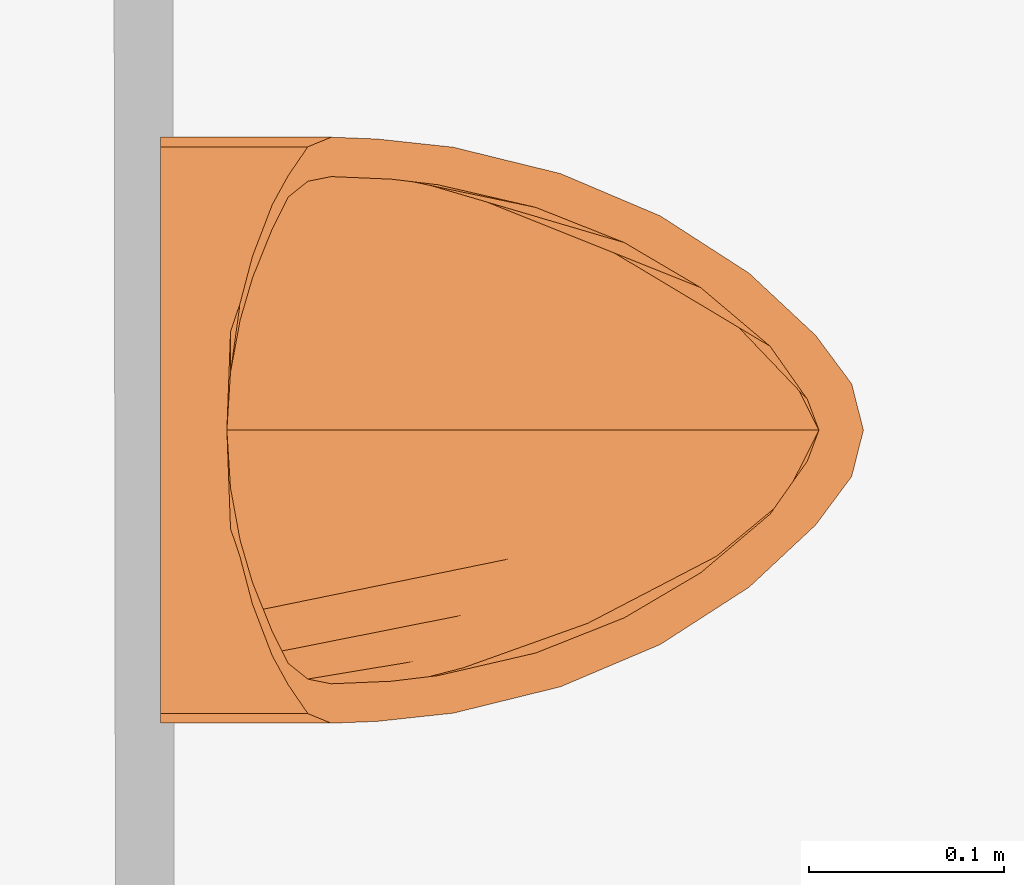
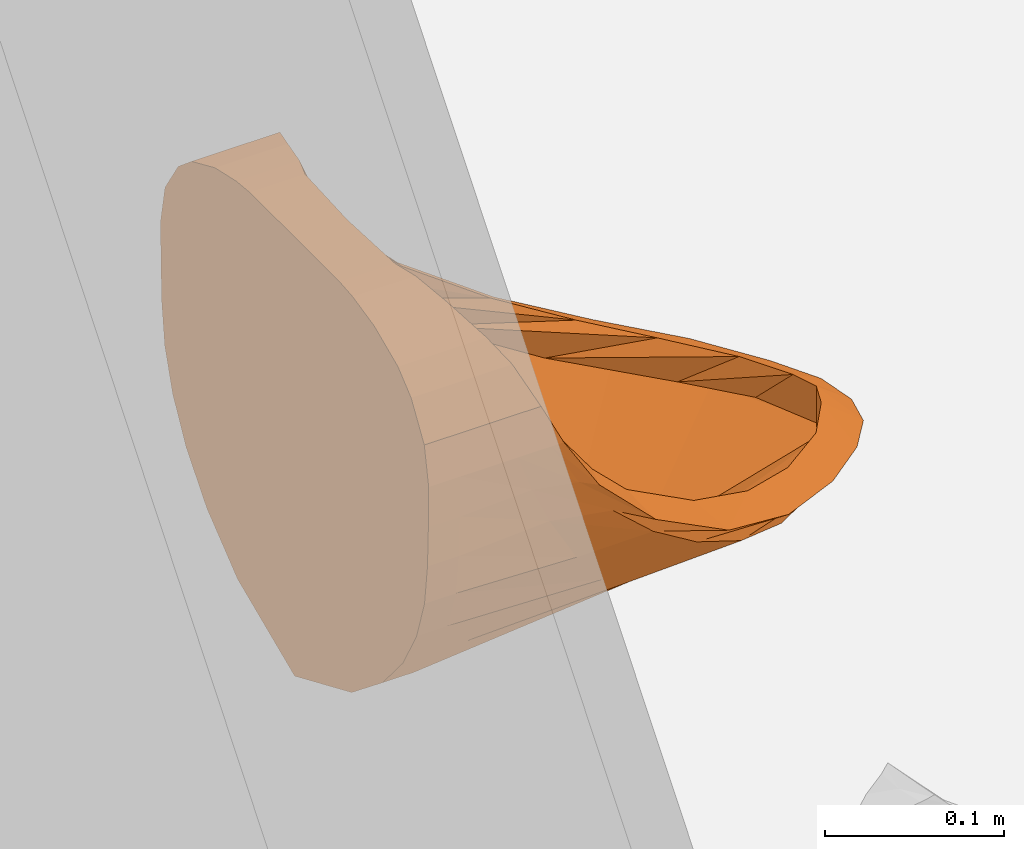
# One storey, part 156 of 158: 1 proxy.
"""IFC2X3 building model written with IfcOpenShell, lengths in metres."""

from ifc_helpers import new_model, entity, si_unit, converted_unit, derived_unit, money_unit, direction, frame, origin_with_axes, place, context, subcontext, project, spatial, open_shell, faceted_brep, surface_model, type_object, element, save


model = new_model("IFC2X3")

# Units and contexts
model_context = context("Model", 3, precision=1e-05, world=origin_with_axes(), true_north=direction((0.0, 1.0)))
body_context = subcontext(model_context, "Body", "Model", "MODEL_VIEW")
ifc_project = project(units=[si_unit("LENGTHUNIT", "METRE"), si_unit("AREAUNIT", "SQUARE_METRE"), si_unit("VOLUMEUNIT", "CUBIC_METRE"), converted_unit("PLANEANGLEUNIT", "DEGREE", entity("IfcPlaneAngleMeasure", 0.0174532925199), si_unit("PLANEANGLEUNIT", "RADIAN"), dimensions=[0, 0, 0, 0, 0, 0, 0]), money_unit("EUR"), converted_unit("TIMEUNIT", "Year", entity("IfcTimeMeasure", 31556926.0), si_unit("TIMEUNIT", "SECOND"), dimensions=[0, 0, 1, 0, 0, 0, 0]), si_unit("MASSUNIT", "GRAM", prefix="KILO"), si_unit("THERMODYNAMICTEMPERATUREUNIT", "DEGREE_CELSIUS"), si_unit("LUMINOUSINTENSITYUNIT", "LUMEN"), si_unit("ENERGYUNIT", "JOULE", prefix="MEGA"), derived_unit("THERMALCONDUCTANCEUNIT", [(si_unit("POWERUNIT", "WATT"), 1), (si_unit("LENGTHUNIT", "METRE"), -1), (si_unit("THERMODYNAMICTEMPERATUREUNIT", "KELVIN"), -1)]), derived_unit("SPECIFICHEATCAPACITYUNIT", [(si_unit("ENERGYUNIT", "JOULE"), 1), (si_unit("MASSUNIT", "GRAM", prefix="KILO"), -1), (si_unit("THERMODYNAMICTEMPERATUREUNIT", "KELVIN"), -1)]), derived_unit("MASSDENSITYUNIT", [(si_unit("MASSUNIT", "GRAM", prefix="KILO"), 1), (si_unit("VOLUMEUNIT", "CUBIC_METRE"), -1)])], contexts=[model_context])

# Site, building, storey
site_placement = place(None, origin_with_axes())
site = spatial("IfcSite", under=ifc_project, at=site_placement, Name="Gelände", CompositionType="ELEMENT")
building_placement = place(site_placement, origin_with_axes())
building = spatial("IfcBuilding", under=site, at=building_placement, Name="Gebäude", CompositionType="ELEMENT")
storey_placement = place(building_placement, origin_with_axes())
storey = spatial("IfcBuildingStorey", under=building, at=storey_placement, Name="ERDGESCHOSS", CompositionType="ELEMENT", Elevation=0.0)

# Proxy
building_element_proxy_type = type_object("IfcBuildingElementProxyType", Name="Urinal 1 25", PredefinedType="NOTDEFINED")
proxy_placement = place(storey_placement, frame((13.2950692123, 24.3829677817, -0.10713353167), z_axis=(0.0, 0.0, 1.0), x_axis=(0.0, 1.0, 0.0)))
element("IfcBuildingElementProxy", 1, at=proxy_placement, inside=storey, type_object=building_element_proxy_type, Name="Objekt-00219", context=body_context, shape_type="SurfaceModel", body=[
    faceted_brep([(0.0, 0.00678921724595, 1.0), (-0.0503710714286, 0.00678921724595, 0.999898), (-0.0503710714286, 0.0, 0.999898), (0.0, 0.0, 1.0), (0.0503710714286, 0.00678921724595, 0.999898), (0.0650260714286, 0.00678921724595, 0.998525), (0.0890367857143, 0.00678921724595, 0.993198), (0.115533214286, 0.00678921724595, 0.981535), (0.130329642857, 0.00678921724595, 0.969181), (0.1451025, 0.00678921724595, 0.945871), (0.15, 0.00678921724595, 0.920148), (0.149671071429, 0.00678921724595, 0.89263), (0.148683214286, 0.00678921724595, 0.865111), (0.145370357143, 0.00678921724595, 0.837593), (0.136527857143, 0.00678921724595, 0.810074), (0.121330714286, 0.00678921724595, 0.782556), (0.0982478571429, 0.00678921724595, 0.755037), (0.0638796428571, 0.00678921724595, 0.727519), (0.0, 0.00678921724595, 0.7), (-0.0638796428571, 0.00678921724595, 0.727519), (-0.0982478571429, 0.00678921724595, 0.755037), (-0.121330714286, 0.00678921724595, 0.782556), (-0.136527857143, 0.00678921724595, 0.810074), (-0.145370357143, 0.00678921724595, 0.837593), (-0.148683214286, 0.00678921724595, 0.865111), (-0.149671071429, 0.00678921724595, 0.89263), (-0.15, 0.00678921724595, 0.920148), (-0.1451025, 0.00678921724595, 0.945871), (-0.130329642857, 0.00678921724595, 0.969181), (-0.115533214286, 0.00678921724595, 0.981535), (-0.0890367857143, 0.00678921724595, 0.993198), (-0.0650260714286, 0.00678921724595, 0.998525), (-0.0650260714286, 0.0, 0.998525), (-0.0890367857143, 0.0, 0.993198), (-0.115533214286, 0.0, 0.981535), (-0.130329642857, 0.0, 0.969181), (-0.1451025, 0.0, 0.945871), (-0.15, 0.0, 0.920148), (-0.149671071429, 0.0, 0.89263), (-0.148683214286, 0.0, 0.865111), (-0.145370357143, 0.0, 0.837593), (-0.136527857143, 0.0, 0.810074), (-0.121330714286, 0.0, 0.782556), (-0.0982478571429, 0.0, 0.755037), (-0.0638796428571, 0.0, 0.727519), (0.0, 0.0, 0.7), (0.0638796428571, 0.0, 0.727519), (0.0982478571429, 0.0, 0.755037), (0.121330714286, 0.0, 0.782556), (0.136527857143, 0.0, 0.810074), (0.145370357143, 0.0, 0.837593), (0.148683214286, 0.0, 0.865111), (0.149671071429, 0.0, 0.89263), (0.15, 0.0, 0.920148), (0.1451025, 0.0, 0.945871), (0.130329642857, 0.0, 0.969181), (0.115533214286, 0.0, 0.981535), (0.0890367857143, 0.0, 0.993198), (0.0650260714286, 0.0, 0.998525), (0.0503710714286, 0.0, 0.999898)], [[[0, 1, 2, 3]], [[0, 4, 5, 6, 7, 8, 9, 10, 11, 12, 13, 14, 15, 16, 17, 18, 19, 20, 21, 22, 23, 24, 25, 26, 27, 28, 29, 30, 31, 1]], [[1, 31, 32, 2]], [[3, 2, 32, 33, 34, 35, 36, 37, 38, 39, 40, 41, 42, 43, 44, 45, 46, 47, 48, 49, 50, 51, 52, 53, 54, 55, 56, 57, 58, 59]], [[4, 0, 3, 59]], [[5, 4, 59, 58]], [[6, 5, 58, 57]], [[7, 6, 57, 56]], [[8, 7, 56, 55]], [[9, 8, 55, 54]], [[10, 9, 54, 53]], [[11, 10, 53, 52]], [[12, 11, 52, 51]], [[13, 12, 51, 50]], [[14, 13, 50, 49]], [[15, 14, 49, 48]], [[16, 15, 48, 47]], [[17, 16, 47, 46]], [[18, 17, 46, 45]], [[19, 18, 45, 44]], [[20, 19, 44, 43]], [[21, 20, 43, 42]], [[22, 21, 42, 41]], [[23, 22, 41, 40]], [[24, 23, 40, 39]], [[25, 24, 39, 38]], [[26, 25, 38, 37]], [[27, 26, 37, 36]], [[28, 27, 36, 35]], [[29, 28, 35, 34]], [[30, 29, 34, 33]], [[31, 30, 33, 32]]]),
    surface_model("IfcShellBasedSurfaceModel", [(0.0, 0.0, 1.0), (0.0, -0.0135784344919, 1.0), (-0.0503710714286, -0.0135784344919, 0.999898), (0.0503710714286, 0.0, 0.999898), (-0.0503710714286, -0.0204138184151, 0.999898), (-0.0503710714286, 0.0, 0.999898), (0.0503710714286, -0.0135784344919, 0.999898), (0.0, -0.0203676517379, 1.0), (-0.0650260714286, -0.0210370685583, 0.998525), (-0.0650260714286, -0.0135784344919, 0.998525), (0.0650260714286, 0.0, 0.998525), (-0.0503710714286, -0.0261316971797, 0.999898), (-0.0650260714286, -0.0270115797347, 0.998525), (-0.0650260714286, 0.0, 0.998525), (0.0650260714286, -0.0135784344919, 0.998525), (0.0503710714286, -0.0204138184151, 0.999898), (0.0, -0.0260610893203, 1.0), (-0.0890367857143, -0.0306438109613, 0.993198), (-0.0890367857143, -0.0234200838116, 0.993198), (-0.0890367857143, -0.0135784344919, 0.993198), (0.0890367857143, 0.0, 0.993198), (-0.0503710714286, -0.0290171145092, 0.999898), (-0.0650260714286, -0.0339365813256, 0.998525), (-0.0890367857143, -0.040261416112, 0.993198), (-0.0890367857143, 0.0, 0.993198), (0.0890367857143, -0.0135784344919, 0.993198), (0.0650260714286, -0.0210370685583, 0.998525), (0.0503710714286, -0.0261316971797, 0.999898), (0.0, -0.0271568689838, 1.0), (-0.115533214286, -0.0504180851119, 0.981535), (-0.115533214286, -0.038215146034, 0.981535), (-0.115533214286, -0.0284495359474, 0.981535), (-0.115533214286, -0.0135784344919, 0.981535), (0.115533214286, 0.0, 0.981535), (-0.115533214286, 0.0, 0.981535), (0.115533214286, -0.0135784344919, 0.981535), (0.0890367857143, -0.0234200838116, 0.993198), (0.0650260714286, -0.0270115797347, 0.998525), (0.0503710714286, -0.0290171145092, 0.999898), (-0.130329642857, -0.0585610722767, 0.969181), (-0.130329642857, -0.0458502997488, 0.969181), (-0.130329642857, -0.0335007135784, 0.969181), (-0.130329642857, -0.0135784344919, 0.969181), (0.130329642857, 0.0, 0.969181), (-0.130329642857, 0.0, 0.969181), (0.130329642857, -0.0135784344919, 0.969181), (0.115533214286, -0.0284495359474, 0.981535), (0.0890367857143, -0.0306438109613, 0.993198), (0.0650260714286, -0.0339365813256, 0.998525), (-0.1451025, -0.0686254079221, 0.945871), (-0.1451025, -0.0592141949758, 0.945871), (-0.1451025, -0.0422696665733, 0.945871), (-0.1451025, -0.0135784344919, 0.945871), (0.1451025, 0.0, 0.945871), (-0.1451025, 0.0, 0.945871), (0.1451025, -0.0135784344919, 0.945871), (0.130329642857, -0.0335007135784, 0.969181), (0.115533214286, -0.038215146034, 0.981535), (0.0890367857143, -0.040261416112, 0.993198), (-0.15, -0.0805635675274, 0.920148), (-0.15, -0.0724409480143, 0.920148), (-0.15, -0.0508118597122, 0.920148), (-0.15, -0.0135784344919, 0.920148), (0.15, 0.0, 0.920148), (-0.15, 0.0, 0.920148), (0.15, -0.0135784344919, 0.920148), (0.1451025, -0.0422696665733, 0.945871), (0.130329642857, -0.0458502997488, 0.969181), (0.115533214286, -0.0504180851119, 0.981535), (-0.149088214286, -0.103963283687, 0.882346), (-0.148938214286, -0.0908166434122, 0.888729), (-0.148493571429, -0.0607906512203, 0.893637), (-0.149671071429, -0.0135784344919, 0.89263), (0.149671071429, 0.0, 0.89263), (-0.149671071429, 0.0, 0.89263), (0.149671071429, -0.0135784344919, 0.89263), (0.15, -0.0508118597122, 0.920148), (0.1451025, -0.0592141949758, 0.945871), (0.130329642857, -0.0585610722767, 0.969181), (-0.144867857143, -0.14305967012, 0.842424), (-0.146004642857, -0.114505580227, 0.859303), (-0.1458225, -0.0736589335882, 0.866246), (-0.148683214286, -0.0135784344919, 0.865111), (0.148683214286, 0.0, 0.865111), (-0.148683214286, 0.0, 0.865111), (0.148683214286, -0.0135784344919, 0.865111), (0.148493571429, -0.0607906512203, 0.893637), (0.15, -0.0724409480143, 0.920148), (0.1451025, -0.0686254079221, 0.945871), (-0.131359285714, -0.197958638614, 0.807653), (-0.1416, -0.143118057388, 0.832354), (-0.137941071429, -0.0956600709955, 0.829001), (-0.145370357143, -0.0135784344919, 0.837593), (0.145370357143, 0.0, 0.837593), (-0.145370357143, 0.0, 0.837593), (0.145370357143, -0.0135784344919, 0.837593), (0.1458225, -0.0736589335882, 0.866246), (0.148938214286, -0.0908166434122, 0.888729), (0.15, -0.0805635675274, 0.920148), (-0.109682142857, -0.249100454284, 0.787417), (-0.133041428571, -0.176182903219, 0.808327), (-0.118344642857, -0.1230613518, 0.792232), (-0.136527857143, -0.0135784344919, 0.810074), (0.136527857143, 0.0, 0.810074), (-0.136527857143, 0.0, 0.810074), (0.136527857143, -0.0135784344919, 0.810074), (0.137941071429, -0.0956600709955, 0.829001), (0.146004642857, -0.114505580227, 0.859303), (0.149088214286, -0.103963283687, 0.882346), (-0.0803528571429, -0.294544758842, 0.776444), (-0.1187925, -0.213155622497, 0.787618), (-0.09477, -0.147373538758, 0.76517), (-0.121330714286, -0.0135784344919, 0.782556), (0.121330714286, 0.0, 0.782556), (-0.121330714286, 0.0, 0.782556), (0.121330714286, -0.0135784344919, 0.782556), (0.118344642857, -0.1230613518, 0.792232), (0.1416, -0.143118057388, 0.832354), (0.144867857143, -0.14305967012, 0.842424), (-0.0486064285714, -0.328531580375, 0.768676), (-0.0942653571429, -0.25342518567, 0.770567), (-0.0659742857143, -0.171256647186, 0.742159), (-0.0982478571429, -0.0135784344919, 0.755037), (0.0982478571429, 0.0, 0.755037), (-0.0982478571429, 0.0, 0.755037), (0.0982478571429, -0.0135784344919, 0.755037), (0.09477, -0.147373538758, 0.76517), (0.133041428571, -0.176182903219, 0.808327), (0.131359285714, -0.197958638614, 0.807653), (-0.0237192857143, -0.347015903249, 0.765137), (-0.0589767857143, -0.296328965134, 0.757456), (-0.0335507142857, -0.194213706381, 0.724265), (-0.0638796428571, -0.0135784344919, 0.727519), (0.0638796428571, 0.0, 0.727519), (-0.0638796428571, 0.0, 0.727519), (0.0638796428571, -0.0135784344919, 0.727519), (0.0659742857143, -0.171256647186, 0.742159), (0.1187925, -0.213155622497, 0.787618), (0.109682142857, -0.249100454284, 0.787417), (0.0, -0.35303929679, 0.763229), (0.0, -0.341159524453, 0.748501), (0.0, -0.214957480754, 0.712313), (0.0, -0.0135784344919, 0.7), (0.0, 0.0, 0.7), (0.0335507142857, -0.194213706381, 0.724265), (0.0942653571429, -0.25342518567, 0.770567), (0.0803528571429, -0.294544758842, 0.776444), (0.0237192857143, -0.347015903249, 0.765137), (0.0589767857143, -0.296328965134, 0.757456), (0.0486064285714, -0.328531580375, 0.768676)], [open_shell([[[0, 1, 2]], [[3, 1, 0]], [[1, 4, 2]], [[0, 2, 5]], [[3, 6, 1]], [[1, 7, 4]], [[2, 4, 8]], [[5, 2, 9]], [[10, 6, 3]], [[6, 7, 1]], [[7, 11, 4]], [[4, 12, 8]], [[2, 8, 9]], [[5, 9, 13]], [[10, 14, 6]], [[6, 15, 7]], [[7, 16, 11]], [[4, 11, 12]], [[8, 12, 17]], [[9, 8, 18]], [[13, 9, 19]], [[20, 14, 10]], [[14, 15, 6]], [[15, 16, 7]], [[16, 21, 11]], [[11, 22, 12]], [[12, 23, 17]], [[8, 17, 18]], [[9, 18, 19]], [[13, 19, 24]], [[20, 25, 14]], [[14, 26, 15]], [[15, 27, 16]], [[16, 28, 21]], [[11, 21, 22]], [[12, 22, 23]], [[17, 23, 29]], [[18, 17, 30]], [[19, 18, 31]], [[24, 19, 32]], [[33, 25, 20]], [[25, 26, 14]], [[26, 27, 15]], [[27, 28, 16]], [[17, 29, 30]], [[18, 30, 31]], [[19, 31, 32]], [[24, 32, 34]], [[33, 35, 25]], [[25, 36, 26]], [[26, 37, 27]], [[27, 38, 28]], [[30, 29, 39]], [[31, 30, 40]], [[32, 31, 41]], [[34, 32, 42]], [[43, 35, 33]], [[35, 36, 25]], [[36, 37, 26]], [[37, 38, 27]], [[30, 39, 40]], [[31, 40, 41]], [[32, 41, 42]], [[34, 42, 44]], [[43, 45, 35]], [[35, 46, 36]], [[36, 47, 37]], [[37, 48, 38]], [[40, 39, 49]], [[41, 40, 50]], [[42, 41, 51]], [[44, 42, 52]], [[53, 45, 43]], [[45, 46, 35]], [[46, 47, 36]], [[47, 48, 37]], [[40, 49, 50]], [[41, 50, 51]], [[42, 51, 52]], [[44, 52, 54]], [[53, 55, 45]], [[45, 56, 46]], [[46, 57, 47]], [[47, 58, 48]], [[50, 49, 59]], [[51, 50, 60]], [[52, 51, 61]], [[54, 52, 62]], [[63, 55, 53]], [[55, 56, 45]], [[56, 57, 46]], [[57, 58, 47]], [[50, 59, 60]], [[51, 60, 61]], [[52, 61, 62]], [[54, 62, 64]], [[63, 65, 55]], [[55, 66, 56]], [[56, 67, 57]], [[57, 68, 58]], [[60, 59, 69]], [[61, 60, 70]], [[62, 61, 71]], [[64, 62, 72]], [[73, 65, 63]], [[65, 66, 55]], [[66, 67, 56]], [[67, 68, 57]], [[60, 69, 70]], [[61, 70, 71]], [[62, 71, 72]], [[64, 72, 74]], [[73, 75, 65]], [[65, 76, 66]], [[66, 77, 67]], [[67, 78, 68]], [[70, 69, 79]], [[71, 70, 80]], [[72, 71, 81]], [[74, 72, 82]], [[83, 75, 73]], [[75, 76, 65]], [[76, 77, 66]], [[77, 78, 67]], [[70, 79, 80]], [[71, 80, 81]], [[72, 81, 82]], [[74, 82, 84]], [[83, 85, 75]], [[75, 86, 76]], [[76, 87, 77]], [[77, 88, 78]], [[80, 79, 89]], [[81, 80, 90]], [[82, 81, 91]], [[84, 82, 92]], [[93, 85, 83]], [[85, 86, 75]], [[86, 87, 76]], [[87, 88, 77]], [[80, 89, 90]], [[81, 90, 91]], [[82, 91, 92]], [[84, 92, 94]], [[93, 95, 85]], [[85, 96, 86]], [[86, 97, 87]], [[87, 98, 88]], [[90, 89, 99]], [[91, 90, 100]], [[92, 91, 101]], [[94, 92, 102]], [[103, 95, 93]], [[95, 96, 85]], [[96, 97, 86]], [[97, 98, 87]], [[90, 99, 100]], [[91, 100, 101]], [[92, 101, 102]], [[94, 102, 104]], [[103, 105, 95]], [[95, 106, 96]], [[96, 107, 97]], [[97, 108, 98]], [[100, 99, 109]], [[101, 100, 110]], [[102, 101, 111]], [[104, 102, 112]], [[113, 105, 103]], [[105, 106, 95]], [[106, 107, 96]], [[107, 108, 97]], [[100, 109, 110]], [[101, 110, 111]], [[102, 111, 112]], [[104, 112, 114]], [[113, 115, 105]], [[105, 116, 106]], [[106, 117, 107]], [[107, 118, 108]], [[110, 109, 119]], [[111, 110, 120]], [[112, 111, 121]], [[114, 112, 122]], [[123, 115, 113]], [[115, 116, 105]], [[116, 117, 106]], [[117, 118, 107]], [[110, 119, 120]], [[111, 120, 121]], [[112, 121, 122]], [[114, 122, 124]], [[123, 125, 115]], [[115, 126, 116]], [[116, 127, 117]], [[117, 128, 118]], [[120, 119, 129]], [[121, 120, 130]], [[122, 121, 131]], [[124, 122, 132]], [[133, 125, 123]], [[125, 126, 115]], [[126, 127, 116]], [[127, 128, 117]], [[120, 129, 130]], [[121, 130, 131]], [[122, 131, 132]], [[124, 132, 134]], [[133, 135, 125]], [[125, 136, 126]], [[126, 137, 127]], [[127, 138, 128]], [[130, 129, 139]], [[131, 130, 140]], [[132, 131, 141]], [[134, 132, 142]], [[143, 135, 133]], [[135, 136, 125]], [[136, 137, 126]], [[137, 138, 127]], [[130, 139, 140]], [[131, 140, 141]], [[132, 141, 142]], [[134, 142, 143]], [[143, 142, 135]], [[135, 144, 136]], [[136, 145, 137]], [[137, 146, 138]], [[140, 139, 147]], [[141, 140, 148]], [[142, 141, 144]], [[142, 144, 135]], [[144, 145, 136]], [[145, 146, 137]], [[140, 147, 148]], [[141, 148, 144]], [[144, 148, 145]], [[145, 149, 146]], [[148, 147, 149]], [[148, 149, 145]]])]),
    surface_model("IfcShellBasedSurfaceModel", [(0.0, -0.0271568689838, 1.0), (0.0, -0.0271568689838, 0.99), (-0.0295992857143, -0.0290171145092, 0.988966), (0.0503710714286, -0.0290171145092, 0.999898), (-0.0503710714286, -0.0290171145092, 0.999898), (0.0295992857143, -0.0290171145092, 0.988966), (-0.056325, -0.0339365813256, 0.98626), (0.0650260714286, -0.0339365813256, 0.998525), (-0.0650260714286, -0.0339365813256, 0.998525), (0.056325, -0.0339365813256, 0.98626), (-0.0779764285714, -0.040261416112, 0.98082), (0.0890367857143, -0.040261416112, 0.993198), (-0.0890367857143, -0.040261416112, 0.993198), (0.0779764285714, -0.040261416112, 0.98082), (-0.103178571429, -0.0504180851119, 0.968491), (0.115533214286, -0.0504180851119, 0.981535), (-0.115533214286, -0.0504180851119, 0.981535), (0.103178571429, -0.0504180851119, 0.968491), (-0.119395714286, -0.0585610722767, 0.952746), (0.130329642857, -0.0585610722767, 0.969181), (-0.130329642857, -0.0585610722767, 0.969181), (0.119395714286, -0.0585610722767, 0.952746), (-0.127429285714, -0.0686254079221, 0.936322), (0.1451025, -0.0686254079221, 0.945871), (-0.1451025, -0.0686254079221, 0.945871), (0.127429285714, -0.0686254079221, 0.936322), (-0.129833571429, -0.0805635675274, 0.920148), (0.15, -0.0805635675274, 0.920148), (-0.15, -0.0805635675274, 0.920148), (0.129833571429, -0.0805635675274, 0.920148), (-0.128517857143, -0.111311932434, 0.87807), (0.149088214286, -0.103963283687, 0.882346), (-0.149088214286, -0.103963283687, 0.882346), (0.128517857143, -0.111311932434, 0.87807), (-0.125659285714, -0.135161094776, 0.854025), (0.144867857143, -0.14305967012, 0.842424), (-0.144867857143, -0.14305967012, 0.842424), (0.125659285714, -0.135161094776, 0.854025), (-0.114079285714, -0.185242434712, 0.821972), (0.131359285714, -0.197958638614, 0.807653), (-0.131359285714, -0.197958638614, 0.807653), (0.114079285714, -0.185242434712, 0.821972), (-0.09609, -0.230545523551, 0.801839), (0.109682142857, -0.249100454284, 0.787417), (-0.109682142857, -0.249100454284, 0.787417), (0.09609, -0.230545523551, 0.801839), (-0.0730071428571, -0.269708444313, 0.790008), (0.0803528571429, -0.294544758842, 0.776444), (-0.0803528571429, -0.294544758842, 0.776444), (0.0730071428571, -0.269708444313, 0.790008), (-0.0429910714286, -0.305236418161, 0.783002), (0.0486064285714, -0.328531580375, 0.768676), (-0.0486064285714, -0.328531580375, 0.768676), (0.0429910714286, -0.305236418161, 0.783002), (-0.0157767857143, -0.324353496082, 0.78057), (0.0237192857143, -0.347015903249, 0.765137), (-0.0237192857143, -0.347015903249, 0.765137), (0.0157767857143, -0.324353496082, 0.78057), (0.0, -0.330266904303, 0.78), (0.0, -0.35303929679, 0.763229)], [open_shell([[[0, 1, 2]], [[3, 1, 0]], [[0, 2, 4]], [[3, 5, 1]], [[4, 2, 6]], [[7, 5, 3]], [[4, 6, 8]], [[7, 9, 5]], [[8, 6, 10]], [[11, 9, 7]], [[8, 10, 12]], [[11, 13, 9]], [[12, 10, 14]], [[15, 13, 11]], [[12, 14, 16]], [[15, 17, 13]], [[16, 14, 18]], [[19, 17, 15]], [[16, 18, 20]], [[19, 21, 17]], [[20, 18, 22]], [[23, 21, 19]], [[20, 22, 24]], [[23, 25, 21]], [[24, 22, 26]], [[27, 25, 23]], [[24, 26, 28]], [[27, 29, 25]], [[28, 26, 30]], [[31, 29, 27]], [[28, 30, 32]], [[31, 33, 29]], [[32, 30, 34]], [[35, 33, 31]], [[32, 34, 36]], [[35, 37, 33]], [[36, 34, 38]], [[39, 37, 35]], [[36, 38, 40]], [[39, 41, 37]], [[40, 38, 42]], [[43, 41, 39]], [[40, 42, 44]], [[43, 45, 41]], [[44, 42, 46]], [[47, 45, 43]], [[44, 46, 48]], [[47, 49, 45]], [[48, 46, 50]], [[51, 49, 47]], [[48, 50, 52]], [[51, 53, 49]], [[52, 50, 54]], [[55, 53, 51]], [[52, 54, 56]], [[55, 57, 53]], [[56, 54, 58]], [[59, 57, 55]], [[56, 58, 59]], [[59, 58, 57]]])]),
    surface_model("IfcShellBasedSurfaceModel", [(0.0, -0.0271568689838, 0.99), (0.0, -0.0194646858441, 0.965651), (-0.0274382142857, -0.0225985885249, 0.964581), (0.0295992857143, -0.0290171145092, 0.988966), (-0.0295992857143, -0.0290171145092, 0.988966), (0.0274382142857, -0.0225985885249, 0.964581), (-0.0502746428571, -0.0252844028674, 0.962521), (0.056325, -0.0339365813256, 0.98626), (-0.056325, -0.0339365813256, 0.98626), (0.0502746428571, -0.0252844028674, 0.962521), (-0.0711675, -0.027124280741, 0.959712), (0.0779764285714, -0.040261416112, 0.98082), (-0.0779764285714, -0.040261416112, 0.98082), (0.0711675, -0.027124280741, 0.959712), (-0.0919746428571, -0.0299934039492, 0.954245), (0.103178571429, -0.0504180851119, 0.968491), (-0.103178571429, -0.0504180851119, 0.968491), (0.0919746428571, -0.0299934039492, 0.954245), (-0.111946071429, -0.0337505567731, 0.945674), (0.119395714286, -0.0585610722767, 0.952746), (-0.119395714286, -0.0585610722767, 0.952746), (0.111946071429, -0.0337505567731, 0.945674), (-0.123648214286, -0.0376299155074, 0.937494), (0.127429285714, -0.0686254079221, 0.936322), (-0.127429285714, -0.0686254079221, 0.936322), (0.123648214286, -0.0376299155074, 0.937494), (-0.136245, -0.0436600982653, 0.920148), (0.129833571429, -0.0805635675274, 0.920148), (-0.129833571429, -0.0805635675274, 0.920148), (0.136245, -0.0436600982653, 0.920148), (-0.136804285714, -0.0600479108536, 0.892365), (0.128517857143, -0.111311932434, 0.87807), (-0.128517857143, -0.111311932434, 0.87807), (0.136804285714, -0.0600479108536, 0.892365), (-0.135535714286, -0.0822214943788, 0.864684), (0.125659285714, -0.135161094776, 0.854025), (-0.125659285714, -0.135161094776, 0.854025), (0.135535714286, -0.0822214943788, 0.864684), (-0.131289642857, -0.111081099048, 0.837549), (0.114079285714, -0.185242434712, 0.821972), (-0.114079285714, -0.185242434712, 0.821972), (0.131289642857, -0.111081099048, 0.837549), (-0.121640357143, -0.148176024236, 0.811391), (0.09609, -0.230545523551, 0.801839), (-0.09609, -0.230545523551, 0.801839), (0.121640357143, -0.148176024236, 0.811391), (-0.0988671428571, -0.211873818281, 0.780769), (0.0730071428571, -0.269708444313, 0.790008), (-0.0730071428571, -0.269708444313, 0.790008), (0.0988671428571, -0.211873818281, 0.780769), (-0.0645653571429, -0.277798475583, 0.762219), (0.0429910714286, -0.305236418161, 0.783002), (-0.0429910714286, -0.305236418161, 0.783002), (0.0645653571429, -0.277798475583, 0.762219), (-0.0362764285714, -0.311975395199, 0.756815), (0.0157767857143, -0.324353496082, 0.78057), (-0.0157767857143, -0.324353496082, 0.78057), (0.0362764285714, -0.311975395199, 0.756815), (0.0, -0.330266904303, 0.755), (0.0, -0.330266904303, 0.78)], [open_shell([[[0, 1, 2]], [[3, 1, 0]], [[0, 2, 4]], [[3, 5, 1]], [[4, 2, 6]], [[7, 5, 3]], [[4, 6, 8]], [[7, 9, 5]], [[8, 6, 10]], [[11, 9, 7]], [[8, 10, 12]], [[11, 13, 9]], [[12, 10, 14]], [[15, 13, 11]], [[12, 14, 16]], [[15, 17, 13]], [[16, 14, 18]], [[19, 17, 15]], [[16, 18, 20]], [[19, 21, 17]], [[20, 18, 22]], [[23, 21, 19]], [[20, 22, 24]], [[23, 25, 21]], [[24, 22, 26]], [[27, 25, 23]], [[24, 26, 28]], [[27, 29, 25]], [[28, 26, 30]], [[31, 29, 27]], [[28, 30, 32]], [[31, 33, 29]], [[32, 30, 34]], [[35, 33, 31]], [[32, 34, 36]], [[35, 37, 33]], [[36, 34, 38]], [[39, 37, 35]], [[36, 38, 40]], [[39, 41, 37]], [[40, 38, 42]], [[43, 41, 39]], [[40, 42, 44]], [[43, 45, 41]], [[44, 42, 46]], [[47, 45, 43]], [[44, 46, 48]], [[47, 49, 45]], [[48, 46, 50]], [[51, 49, 47]], [[48, 50, 52]], [[51, 53, 49]], [[52, 50, 54]], [[55, 53, 51]], [[52, 54, 56]], [[55, 57, 53]], [[56, 54, 58]], [[59, 57, 55]], [[56, 58, 59]], [[59, 58, 57]]])]),
])

save(model, "model.ifc")
